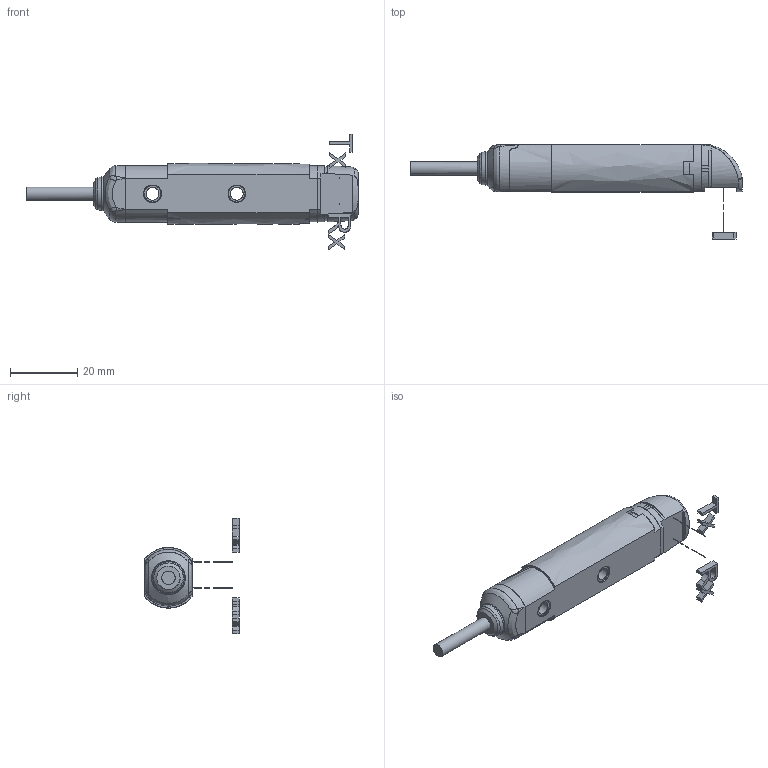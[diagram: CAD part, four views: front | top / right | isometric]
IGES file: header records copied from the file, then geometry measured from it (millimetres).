
Global section: file name: D:\TMP\DSD-0092.igs; preprocessor: I-DEAS 3D IGES Translator 11; date: 20060608.094756; units: millimetre
Bounding box: 98.58 x 28 x 34.32 mm (x, y, z)
Volume: 91.1 mm3; surface area: 5323.5 mm2
Topology: 8 solids, 8 shells, 215 faces, 1015 edges, 919 vertices
Faces by surface type: bspline 215
